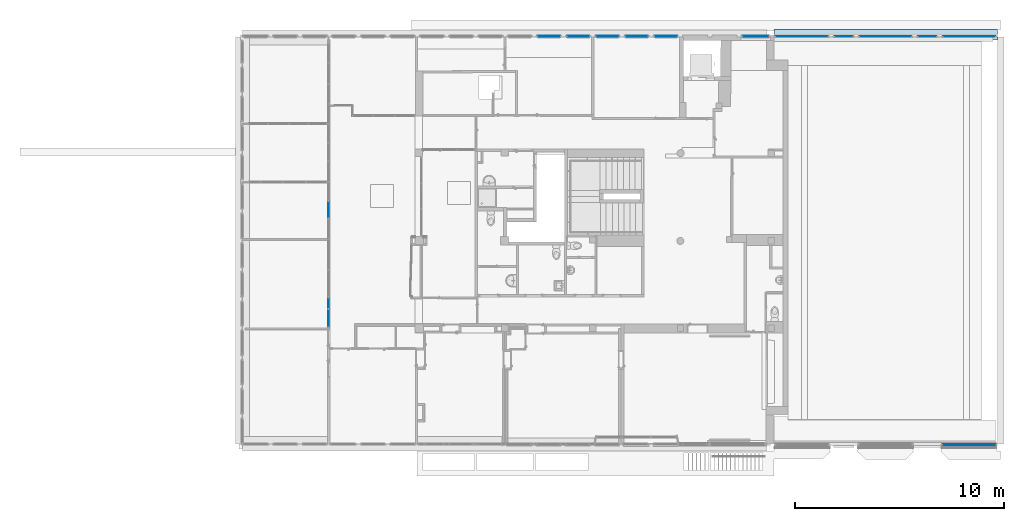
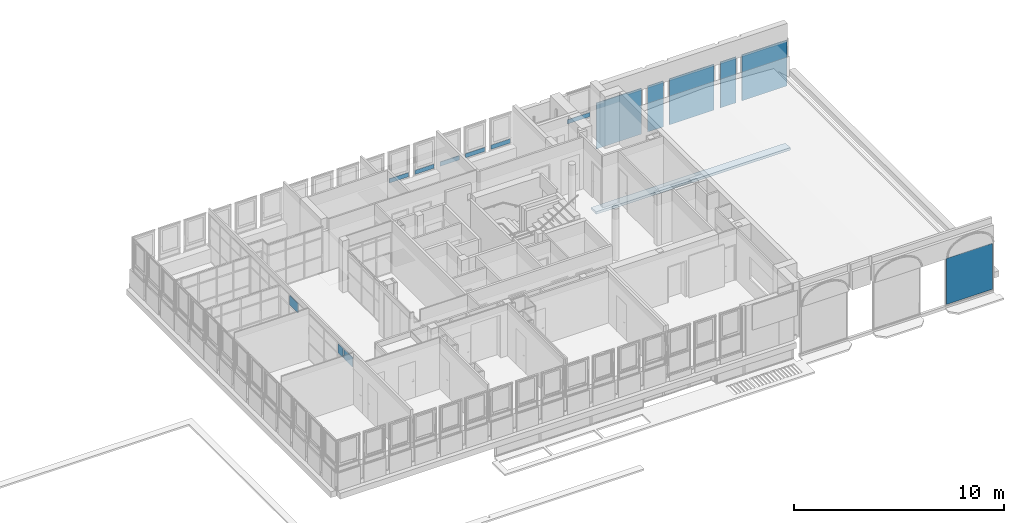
# One storey, part 34 of 97: 15 plates, 1 slab, 13 elements without a shape of their own.
"""IFC4 building model written with IfcOpenShell, lengths in metres."""

from ifc_helpers import new_model, entity, si_unit, converted_unit, derived_unit, direction, frame, origin, place, context, subcontext, project, spatial, indexed_curve, outline, extrude, shape, source, transform, mapped, material, layer, layer_set, type_object, type_shapes, element, aggregate, save


model = new_model("IFC4")

# Units and contexts
model_context = context("Model", 3, precision=1e-05, world=origin(), true_north=direction((6.12303176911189e-17, 1.0)))
body_context = subcontext(model_context, "Body", "Model", "MODEL_VIEW")
footprint_context = subcontext(model_context, "FootPrint", "Model", "MODEL_VIEW")
ifc_project = project(units=[si_unit("LENGTHUNIT", "METRE"), si_unit("AREAUNIT", "SQUARE_METRE"), si_unit("VOLUMEUNIT", "CUBIC_METRE"), converted_unit("PLANEANGLEUNIT", "DEGREE", entity("IfcRatioMeasure", 0.0174532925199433), si_unit("PLANEANGLEUNIT", "RADIAN"), dimensions=[0, 0, 0, 0, 0, 0, 0]), si_unit("MASSUNIT", "GRAM", prefix="KILO"), derived_unit("MASSDENSITYUNIT", [(si_unit("MASSUNIT", "GRAM", prefix="KILO"), 1), (si_unit("LENGTHUNIT", "METRE"), -3)]), derived_unit("MOMENTOFINERTIAUNIT", [(si_unit("LENGTHUNIT", "METRE"), 4)]), si_unit("TIMEUNIT", "SECOND"), si_unit("FREQUENCYUNIT", "HERTZ"), si_unit("THERMODYNAMICTEMPERATUREUNIT", "DEGREE_CELSIUS"), derived_unit("THERMALTRANSMITTANCEUNIT", [(si_unit("MASSUNIT", "GRAM", prefix="KILO"), 1), (si_unit("THERMODYNAMICTEMPERATUREUNIT", "KELVIN"), -1), (si_unit("TIMEUNIT", "SECOND"), -3)]), derived_unit("VOLUMETRICFLOWRATEUNIT", [(si_unit("LENGTHUNIT", "METRE"), 3), (si_unit("TIMEUNIT", "SECOND"), -1)]), si_unit("ELECTRICCURRENTUNIT", "AMPERE"), si_unit("ELECTRICVOLTAGEUNIT", "VOLT"), si_unit("POWERUNIT", "WATT"), si_unit("FORCEUNIT", "NEWTON", prefix="KILO"), si_unit("ILLUMINANCEUNIT", "LUX"), si_unit("LUMINOUSFLUXUNIT", "LUMEN"), si_unit("LUMINOUSINTENSITYUNIT", "CANDELA"), derived_unit("USERDEFINED", [(si_unit("MASSUNIT", "GRAM", prefix="KILO"), -1), (si_unit("LENGTHUNIT", "METRE"), -2), (si_unit("TIMEUNIT", "SECOND"), 3), (si_unit("LUMINOUSFLUXUNIT", "LUMEN"), 1)]), derived_unit("LINEARVELOCITYUNIT", [(si_unit("LENGTHUNIT", "METRE"), 1), (si_unit("TIMEUNIT", "SECOND"), -1)]), si_unit("PRESSUREUNIT", "PASCAL"), derived_unit("USERDEFINED", [(si_unit("LENGTHUNIT", "METRE"), -2), (si_unit("MASSUNIT", "GRAM", prefix="KILO"), 1), (si_unit("TIMEUNIT", "SECOND"), -2)]), derived_unit("LINEARFORCEUNIT", [(si_unit("MASSUNIT", "GRAM", prefix="KILO"), 1), (si_unit("LENGTHUNIT", "METRE"), 1), (si_unit("TIMEUNIT", "SECOND"), -2), (si_unit("LENGTHUNIT", "METRE"), -1)]), derived_unit("PLANARFORCEUNIT", [(si_unit("MASSUNIT", "GRAM", prefix="KILO"), 1), (si_unit("LENGTHUNIT", "METRE"), 1), (si_unit("TIMEUNIT", "SECOND"), -2), (si_unit("LENGTHUNIT", "METRE"), -2)])], contexts=[model_context])

# Site, building, storey
site_placement = place(None, origin())
site = spatial("IfcSite", under=ifc_project, at=site_placement, Name="Default", CompositionType="ELEMENT")
building_placement = place(site_placement, origin())
building = spatial("IfcBuilding", under=site, at=building_placement, Name="HOTEL CONSULAIRE BOULOGNE SUR MER", CompositionType="ELEMENT")
storey_placement = place(building_placement, frame((0.0, 0.0, 3.62152697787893)))
storey = spatial("IfcBuildingStorey", under=building, at=storey_placement, Name="Niveau 1", CompositionType="ELEMENT", Elevation=3.62152697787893)

# Slab
ifc_material_1 = material(Name="Plâtre", Category="Plâtre")
slab_type = type_object("IfcSlabType", Name="Sols 3:Sols 3", PredefinedType="FLOOR", material=ifc_material_1)
slab_placement = place(storey_placement, frame((11.6466382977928, -10.2140173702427, -4.82796366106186)))
element("IfcSlab", 1, at=slab_placement, inside=storey, type_object=slab_type, Name="Sols 3:Sols 3", ObjectType="Sols 3:Sols 3", PredefinedType="FLOOR", context=body_context, shape_type="SweptSolid", body=[
    extrude(outline(indexed_curve([(-0.24123902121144, -0.0594817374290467), (-0.103670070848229, -0.0594817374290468), (-0.0833548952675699, -0.059481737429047), (0.247095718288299, -0.0594817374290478), (0.245654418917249, -0.0377055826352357), (0.23748698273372, 0.0856937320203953), (0.108384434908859, 0.0771488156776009), (-0.161639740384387, 0.0592767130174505), (-0.248717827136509, 0.0535132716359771), (-0.24123902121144, -0.0594817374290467)], self_intersect=False)), frame((0.0, 0.242627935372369, 0.069822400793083), z_axis=(1.0, 0.0, 0.0), x_axis=(0.0, -0.997816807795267, 0.0660425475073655)), (0.0, 0.0, 1.0), 10.6903810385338),
])

# Curtain wall, plate
curtain_wall_type = type_object("IfcCurtainWallType", Name="Mur-rideau:Simple panneau", PredefinedType="NOTDEFINED")
curtain_wall_1_placement = place(storey_placement, frame((0.0, 0.0, -3.62152697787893)))
curtain_wall_1 = element("IfcCurtainWall", 2, at=curtain_wall_1_placement, inside=storey, type_object=curtain_wall_type, Name="Mur-rideau:Simple panneau", ObjectType="Mur-rideau:Simple panneau", PredefinedType="NOTDEFINED")
ifc_material_2 = material(Name="Verre", Category="Verre")
ifc_layer = layer(ifc_material_2, 0.04, Name="Verre", Category="Verre")
ifc_layer_set = layer_set([ifc_layer], Name="Mur-rideau:Simple panneau")
plate_type_1 = type_object("IfcPlateType", Name="Panneau système:Vitré", PredefinedType="CURTAIN_PANEL", material=ifc_layer_set)
shared_shape_1 = source(origin(), body_context, "Body", "SweptSolid", [
    extrude(outline(indexed_curve([(-0.02, -0.530000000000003), (0.02, -0.530000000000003), (0.02, 0.530000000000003), (-0.02, 0.530000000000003), (-0.02, -0.530000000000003)], self_intersect=False)), frame((0.530000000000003, 0.02, 0.0), z_axis=(0.0, 0.0, 1.0), x_axis=(0.0, 1.0, 0.0)), (0.0, 0.0, 1.0), 0.243),
])
shared_shape_2 = source(frame((-0.530000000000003, 0.00500000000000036, 0.0)), footprint_context, "FootPrint", "Curve2D", [
    entity("IfcIndexedPolyCurve", entity("IfcCartesianPointList2D", [[0.691544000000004, 0.00347600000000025], [0.691544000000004, 0.0434760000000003], [-0.368456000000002, 0.0434760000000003], [-0.368456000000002, 0.00347600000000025], [0.691544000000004, 0.00347600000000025]]), None, False),
])
type_shapes(plate_type_1, [shared_shape_1, shared_shape_2])
plate_1_placement = place(curtain_wall_1_placement, frame((0.347578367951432, -10.0696323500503, 4.48313951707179)))
plate_1 = element("IfcPlate", 3, at=plate_1_placement, type_object=plate_type_1, material=ifc_layer_set, Name="Panneau système:Vitré", ObjectType="Panneau système:Vitré", PredefinedType="CURTAIN_PANEL", shapes=[
    shape(body_context, "Body", "MappedRepresentation", [mapped(shared_shape_1, transform((0.0, 0.0, 0.0), scale=1.0))]),
    shape(body_context, "Body", "MappedRepresentation", [mapped(shared_shape_2, transform((0.0, 0.0, 0.0), scale=1.0))]),
])
aggregate(curtain_wall_1, [plate_1])

curtain_wall_2_placement = place(storey_placement, frame((0.0, 0.0, -3.62152697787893)))
curtain_wall_2 = element("IfcCurtainWall", 4, at=curtain_wall_2_placement, inside=storey, type_object=curtain_wall_type, Name="Mur-rideau:Simple panneau", ObjectType="Mur-rideau:Simple panneau", PredefinedType="NOTDEFINED")
plate_2_placement = place(curtain_wall_2_placement, frame((1.74757836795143, -10.0696323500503, 4.48313951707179)))
plate_2 = element("IfcPlate", 5, at=plate_2_placement, type_object=plate_type_1, material=ifc_layer_set, Name="Panneau système:Vitré", ObjectType="Panneau système:Vitré", PredefinedType="CURTAIN_PANEL", shapes=[
    shape(body_context, "Body", "MappedRepresentation", [mapped(shared_shape_1, transform((0.0, 0.0, 0.0), scale=1.0))]),
    shape(body_context, "Body", "MappedRepresentation", [mapped(shared_shape_2, transform((0.0, 0.0, 0.0), scale=1.0))]),
])
aggregate(curtain_wall_2, [plate_2])

curtain_wall_3_placement = place(storey_placement, frame((0.0, 0.0, -3.62152697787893)))
curtain_wall_3 = element("IfcCurtainWall", 6, at=curtain_wall_3_placement, inside=storey, type_object=curtain_wall_type, Name="Mur-rideau:Simple panneau", ObjectType="Mur-rideau:Simple panneau", PredefinedType="NOTDEFINED")
plate_3_placement = place(curtain_wall_3_placement, frame((3.14857836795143, -10.0696323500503, 4.48313951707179)))
plate_3 = element("IfcPlate", 7, at=plate_3_placement, type_object=plate_type_1, material=ifc_layer_set, Name="Panneau système:Vitré", ObjectType="Panneau système:Vitré", PredefinedType="CURTAIN_PANEL", shapes=[
    shape(body_context, "Body", "MappedRepresentation", [mapped(shared_shape_1, transform((0.0, 0.0, 0.0), scale=1.0))]),
    shape(body_context, "Body", "MappedRepresentation", [mapped(shared_shape_2, transform((0.0, 0.0, 0.0), scale=1.0))]),
])
aggregate(curtain_wall_3, [plate_3])

curtain_wall_4_placement = place(storey_placement, frame((0.0, 0.0, -3.62152697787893)))
curtain_wall_4 = element("IfcCurtainWall", 8, at=curtain_wall_4_placement, inside=storey, type_object=curtain_wall_type, Name="Mur-rideau:Simple panneau", ObjectType="Mur-rideau:Simple panneau", PredefinedType="NOTDEFINED")
plate_4_placement = place(curtain_wall_4_placement, frame((4.54757836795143, -10.0696323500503, 4.48313951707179)))
plate_4 = element("IfcPlate", 9, at=plate_4_placement, type_object=plate_type_1, material=ifc_layer_set, Name="Panneau système:Vitré", ObjectType="Panneau système:Vitré", PredefinedType="CURTAIN_PANEL", shapes=[
    shape(body_context, "Body", "MappedRepresentation", [mapped(shared_shape_1, transform((0.0, 0.0, 0.0), scale=1.0))]),
    shape(body_context, "Body", "MappedRepresentation", [mapped(shared_shape_2, transform((0.0, 0.0, 0.0), scale=1.0))]),
])
aggregate(curtain_wall_4, [plate_4])

curtain_wall_5_placement = place(storey_placement, frame((0.0, 0.0, -3.62152697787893)))
curtain_wall_5 = element("IfcCurtainWall", 10, at=curtain_wall_5_placement, inside=storey, type_object=curtain_wall_type, Name="Mur-rideau:Simple panneau", ObjectType="Mur-rideau:Simple panneau", PredefinedType="NOTDEFINED")
plate_5_placement = place(curtain_wall_5_placement, frame((5.94757836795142, -10.0696323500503, 4.48313951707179)))
plate_5 = element("IfcPlate", 11, at=plate_5_placement, type_object=plate_type_1, material=ifc_layer_set, Name="Panneau système:Vitré", ObjectType="Panneau système:Vitré", PredefinedType="CURTAIN_PANEL", shapes=[
    shape(body_context, "Body", "MappedRepresentation", [mapped(shared_shape_1, transform((0.0, 0.0, 0.0), scale=1.0))]),
    shape(body_context, "Body", "MappedRepresentation", [mapped(shared_shape_2, transform((0.0, 0.0, 0.0), scale=1.0))]),
])
aggregate(curtain_wall_5, [plate_5])

curtain_wall_6_placement = place(storey_placement, frame((0.0, 0.0, -3.62152697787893)))
curtain_wall_6 = element("IfcCurtainWall", 12, at=curtain_wall_6_placement, inside=storey, type_object=curtain_wall_type, Name="Mur-rideau:Simple panneau", ObjectType="Mur-rideau:Simple panneau", PredefinedType="NOTDEFINED")
plate_type_2 = type_object("IfcPlateType", Name="Panneau système:Vitré", PredefinedType="CURTAIN_PANEL", material=ifc_layer_set)
shared_shape_3 = source(origin(), body_context, "Body", "SweptSolid", [
    extrude(outline(indexed_curve([(-0.02, -0.627949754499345), (0.02, -0.627949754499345), (0.02, 0.627949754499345), (-0.02, 0.627949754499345), (-0.02, -0.627949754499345)], self_intersect=False)), frame((0.627949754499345, 0.02, 0.0), z_axis=(0.0, 0.0, 1.0), x_axis=(0.0, 1.0, 0.0)), (0.0, 0.0, 1.0), 0.243),
])
shared_shape_4 = source(frame((-0.627949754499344, 0.00499999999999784, 0.0)), footprint_context, "FootPrint", "Curve2D", [
    entity("IfcIndexedPolyCurve", entity("IfcCartesianPointList2D", [[0.819348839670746, 0.0034759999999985], [0.819348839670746, 0.0434759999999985], [-0.436550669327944, 0.0434759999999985], [-0.436550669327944, 0.0034759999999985], [0.819348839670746, 0.0034759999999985]]), None, False),
])
type_shapes(plate_type_2, [shared_shape_3, shared_shape_4])
plate_6_placement = place(curtain_wall_6_placement, frame((10.1475783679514, -10.0696323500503, 4.48313951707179)))
plate_6 = element("IfcPlate", 13, at=plate_6_placement, type_object=plate_type_2, material=ifc_layer_set, Name="Panneau système:Vitré", ObjectType="Panneau système:Vitré", PredefinedType="CURTAIN_PANEL", shapes=[
    shape(body_context, "Body", "MappedRepresentation", [mapped(shared_shape_3, transform((0.0, 0.0, 0.0), scale=1.0))]),
    shape(body_context, "Body", "MappedRepresentation", [mapped(shared_shape_4, transform((0.0, 0.0, 0.0), scale=1.0))]),
])
aggregate(curtain_wall_6, [plate_6])

curtain_wall_7_placement = place(storey_placement, frame((0.0, 0.0, -3.62152697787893)))
curtain_wall_7 = element("IfcCurtainWall", 14, at=curtain_wall_7_placement, inside=storey, type_object=curtain_wall_type, Name="Mur-rideau:Simple panneau", ObjectType="Mur-rideau:Simple panneau", PredefinedType="NOTDEFINED")
plate_type_3 = type_object("IfcPlateType", Name="Panneau système:Vitré", PredefinedType="CURTAIN_PANEL", material=ifc_layer_set)
shared_shape_5 = source(origin(), body_context, "Body", "SweptSolid", [
    extrude(outline(indexed_curve([(-0.02, -1.23658064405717), (0.02, -1.23658064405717), (0.02, 1.23658064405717), (-0.02, 1.23658064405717), (-0.02, -1.23658064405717)], self_intersect=False)), frame((1.23658064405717, 0.02, 0.0), z_axis=(0.0, 0.0, 1.0), x_axis=(0.0, 1.0, 0.0)), (0.0, 0.0, 1.0), 2.66936343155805),
])
shared_shape_6 = source(frame((-1.23658064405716, 0.00500000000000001, 0.0)), footprint_context, "FootPrint", "Curve2D", [
    entity("IfcIndexedPolyCurve", entity("IfcCartesianPointList2D", [[1.61349042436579, 0.003476], [1.61349042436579, 0.043476], [-0.85967086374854, 0.043476], [-0.85967086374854, 0.003476], [1.61349042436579, 0.003476]]), None, False),
])
type_shapes(plate_type_3, [shared_shape_5, shared_shape_6])
plate_7_placement = place(curtain_wall_7_placement, frame((22.2327413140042, -10.0380173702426, 2.48152697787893), z_axis=(0.0, 0.0, 1.0), x_axis=(-1.0, 0.0, 0.0)))
plate_7 = element("IfcPlate", 15, at=plate_7_placement, type_object=plate_type_3, material=ifc_layer_set, Name="Panneau système:Vitré", ObjectType="Panneau système:Vitré", PredefinedType="CURTAIN_PANEL", shapes=[
    shape(body_context, "Body", "MappedRepresentation", [mapped(shared_shape_5, transform((0.0, 0.0, 0.0), scale=1.0))]),
    shape(body_context, "Body", "MappedRepresentation", [mapped(shared_shape_6, transform((0.0, 0.0, 0.0), scale=1.0))]),
])
aggregate(curtain_wall_7, [plate_7])

curtain_wall_8_placement = place(storey_placement, frame((0.0, 0.0, -3.62152697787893)))
curtain_wall_8 = element("IfcCurtainWall", 16, at=curtain_wall_8_placement, inside=storey, type_object=curtain_wall_type, Name="Mur-rideau:Simple panneau", ObjectType="Mur-rideau:Simple panneau", PredefinedType="NOTDEFINED")
plate_type_4 = type_object("IfcPlateType", Name="Panneau système:Vitré", PredefinedType="CURTAIN_PANEL", material=ifc_layer_set)
shared_shape_7 = source(origin(), body_context, "Body", "SweptSolid", [
    extrude(outline(indexed_curve([(-0.02, -1.24591957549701), (0.02, -1.24591957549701), (0.02, 1.24591957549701), (-0.02, 1.24591957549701), (-0.02, -1.24591957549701)], self_intersect=False)), frame((1.24591957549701, 0.02, 0.0), z_axis=(0.0, 0.0, 1.0), x_axis=(0.0, 1.0, 0.0)), (0.0, 0.0, 1.0), 2.66936343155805),
])
shared_shape_8 = source(frame((-1.24591957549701, 0.00500000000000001, 0.0)), footprint_context, "FootPrint", "Curve2D", [
    entity("IfcIndexedPolyCurve", entity("IfcCartesianPointList2D", [[1.6256758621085, 0.003476], [1.6256758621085, 0.043476], [-0.866163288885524, 0.043476], [-0.866163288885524, 0.003476], [1.6256758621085, 0.003476]]), None, False),
])
type_shapes(plate_type_4, [shared_shape_7, shared_shape_8])
plate_8_placement = place(curtain_wall_8_placement, frame((14.2230366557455, -10.0380173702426, 2.48152697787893), z_axis=(0.0, 0.0, 1.0), x_axis=(-1.0, 0.0, 0.0)))
plate_8 = element("IfcPlate", 17, at=plate_8_placement, type_object=plate_type_4, material=ifc_layer_set, Name="Panneau système:Vitré", ObjectType="Panneau système:Vitré", PredefinedType="CURTAIN_PANEL", shapes=[
    shape(body_context, "Body", "MappedRepresentation", [mapped(shared_shape_7, transform((0.0, 0.0, 0.0), scale=1.0))]),
    shape(body_context, "Body", "MappedRepresentation", [mapped(shared_shape_8, transform((0.0, 0.0, 0.0), scale=1.0))]),
])
aggregate(curtain_wall_8, [plate_8])

curtain_wall_9_placement = place(storey_placement, frame((0.0, 0.0, -3.62152697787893)))
curtain_wall_9 = element("IfcCurtainWall", 18, at=curtain_wall_9_placement, inside=storey, type_object=curtain_wall_type, Name="Mur-rideau:Simple panneau", ObjectType="Mur-rideau:Simple panneau", PredefinedType="NOTDEFINED")
plate_type_5 = type_object("IfcPlateType", Name="Panneau système:Vitré", PredefinedType="CURTAIN_PANEL", material=ifc_layer_set)
shared_shape_9 = source(origin(), body_context, "Body", "SweptSolid", [
    extrude(outline(indexed_curve([(-0.02, -0.427254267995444), (0.02, -0.427254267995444), (0.02, 0.427254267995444), (-0.02, 0.427254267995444), (-0.02, -0.427254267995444)], self_intersect=False)), frame((0.427254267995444, 0.02, 0.0), z_axis=(0.0, 0.0, 1.0), x_axis=(0.0, 1.0, 0.0)), (0.0, 0.0, 1.0), 2.66936343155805),
])
shared_shape_10 = source(frame((-0.427254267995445, 0.00500000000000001, 0.0)), footprint_context, "FootPrint", "Curve2D", [
    entity("IfcIndexedPolyCurve", entity("IfcCartesianPointList2D", [[0.557481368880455, 0.003476], [0.557481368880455, 0.043476], [-0.297027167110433, 0.043476], [-0.297027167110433, 0.003476], [0.557481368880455, 0.003476]]), None, False),
])
type_shapes(plate_type_5, [shared_shape_9, shared_shape_10])
plate_9_placement = place(curtain_wall_9_placement, frame((15.4175451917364, -10.0380173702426, 2.48152697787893), z_axis=(0.0, 0.0, 1.0), x_axis=(-1.0, 0.0, 0.0)))
plate_9 = element("IfcPlate", 19, at=plate_9_placement, type_object=plate_type_5, material=ifc_layer_set, Name="Panneau système:Vitré", ObjectType="Panneau système:Vitré", PredefinedType="CURTAIN_PANEL", shapes=[
    shape(body_context, "Body", "MappedRepresentation", [mapped(shared_shape_9, transform((0.0, 0.0, 0.0), scale=1.0))]),
    shape(body_context, "Body", "MappedRepresentation", [mapped(shared_shape_10, transform((0.0, 0.0, 0.0), scale=1.0))]),
])
aggregate(curtain_wall_9, [plate_9])

curtain_wall_10_placement = place(storey_placement, frame((0.0, 0.0, -3.62152697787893)))
curtain_wall_10 = element("IfcCurtainWall", 20, at=curtain_wall_10_placement, inside=storey, type_object=curtain_wall_type, Name="Mur-rideau:Simple panneau", ObjectType="Mur-rideau:Simple panneau", PredefinedType="NOTDEFINED")
plate_type_6 = type_object("IfcPlateType", Name="Panneau système:Vitré", PredefinedType="CURTAIN_PANEL", material=ifc_layer_set)
shared_shape_11 = source(origin(), body_context, "Body", "SweptSolid", [
    extrude(outline(indexed_curve([(-0.02, -1.23175465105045), (0.02, -1.23175465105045), (0.02, 1.23175465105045), (-0.02, 1.23175465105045), (-0.02, -1.23175465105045)], self_intersect=False)), frame((1.23175465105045, 0.02, 0.0), z_axis=(0.0, 0.0, 1.0), x_axis=(0.0, 1.0, 0.0)), (0.0, 0.0, 1.0), 2.66936343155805),
])
shared_shape_12 = source(frame((-1.23175465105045, 0.00500000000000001, 0.0)), footprint_context, "FootPrint", "Curve2D", [
    entity("IfcIndexedPolyCurve", entity("IfcCartesianPointList2D", [[1.60719346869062, 0.003476], [1.60719346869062, 0.043476], [-0.856315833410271, 0.043476], [-0.856315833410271, 0.003476], [1.60719346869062, 0.003476]]), None, False),
])
type_shapes(plate_type_6, [shared_shape_11, shared_shape_12])
plate_10_placement = place(curtain_wall_10_placement, frame((18.2210544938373, -10.0380173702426, 2.48152697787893), z_axis=(0.0, 0.0, 1.0), x_axis=(-1.0, 0.0, 0.0)))
plate_10 = element("IfcPlate", 21, at=plate_10_placement, type_object=plate_type_6, material=ifc_layer_set, Name="Panneau système:Vitré", ObjectType="Panneau système:Vitré", PredefinedType="CURTAIN_PANEL", shapes=[
    shape(body_context, "Body", "MappedRepresentation", [mapped(shared_shape_11, transform((0.0, 0.0, 0.0), scale=1.0))]),
    shape(body_context, "Body", "MappedRepresentation", [mapped(shared_shape_12, transform((0.0, 0.0, 0.0), scale=1.0))]),
])
aggregate(curtain_wall_10, [plate_10])

curtain_wall_11_placement = place(storey_placement, frame((0.0, 0.0, -3.62152697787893)))
curtain_wall_11 = element("IfcCurtainWall", 22, at=curtain_wall_11_placement, inside=storey, type_object=curtain_wall_type, Name="Mur-rideau:Simple panneau", ObjectType="Mur-rideau:Simple panneau", PredefinedType="NOTDEFINED")
plate_type_7 = type_object("IfcPlateType", Name="Panneau système:Vitré", PredefinedType="CURTAIN_PANEL", material=ifc_layer_set)
shared_shape_13 = source(origin(), body_context, "Body", "SweptSolid", [
    extrude(outline(indexed_curve([(-0.02, -0.429262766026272), (0.02, -0.429262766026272), (0.02, 0.429262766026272), (-0.02, 0.429262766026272), (-0.02, -0.429262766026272)], self_intersect=False)), frame((0.429262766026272, 0.02, 0.0), z_axis=(0.0, 0.0, 1.0), x_axis=(0.0, 1.0, 0.0)), (0.0, 0.0, 1.0), 2.66936343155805),
])
shared_shape_14 = source(frame((-0.429262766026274, 0.00500000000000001, 0.0)), footprint_context, "FootPrint", "Curve2D", [
    entity("IfcIndexedPolyCurve", entity("IfcCartesianPointList2D", [[0.560102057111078, 0.003476], [0.560102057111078, 0.043476], [-0.298423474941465, 0.043476], [-0.298423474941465, 0.003476], [0.560102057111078, 0.003476]]), None, False),
])
type_shapes(plate_type_7, [shared_shape_13, shared_shape_14])
plate_11_placement = place(curtain_wall_11_placement, frame((19.4195800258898, -10.0380173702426, 2.48152697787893), z_axis=(0.0, 0.0, 1.0), x_axis=(-1.0, 0.0, 0.0)))
plate_11 = element("IfcPlate", 23, at=plate_11_placement, type_object=plate_type_7, material=ifc_layer_set, Name="Panneau système:Vitré", ObjectType="Panneau système:Vitré", PredefinedType="CURTAIN_PANEL", shapes=[
    shape(body_context, "Body", "MappedRepresentation", [mapped(shared_shape_13, transform((0.0, 0.0, 0.0), scale=1.0))]),
    shape(body_context, "Body", "MappedRepresentation", [mapped(shared_shape_14, transform((0.0, 0.0, 0.0), scale=1.0))]),
])
aggregate(curtain_wall_11, [plate_11])

# Curtain wall, plates
curtain_wall_12_placement = place(storey_placement, frame((0.0, 0.0, -3.62152697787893)))
curtain_wall_12 = element("IfcCurtainWall", 24, at=curtain_wall_12_placement, inside=storey, type_object=curtain_wall_type, Name="Mur-rideau:Simple panneau", ObjectType="Mur-rideau:Simple panneau", PredefinedType="NOTDEFINED")
plate_type_8 = type_object("IfcPlateType", Name="Panneau système:Vitré", PredefinedType="CURTAIN_PANEL", material=ifc_layer_set)
shared_shape_15 = source(origin(), body_context, "Body", "SweptSolid", [
    extrude(outline(indexed_curve([(-0.02, -0.403999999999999), (0.02, -0.403999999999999), (0.02, 0.403999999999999), (-0.02, 0.403999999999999), (-0.02, -0.403999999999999)], self_intersect=False)), frame((0.403999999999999, 0.02, 0.0), z_axis=(0.0, 0.0, 1.0), x_axis=(0.0, 1.0, 0.0)), (0.0, 0.0, 1.0), 0.546),
])
shared_shape_16 = source(frame((-0.403999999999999, 0.00500000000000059, 0.0)), footprint_context, "FootPrint", "Curve2D", [
    entity("IfcIndexedPolyCurve", entity("IfcCartesianPointList2D", [[0.527139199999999, 0.00347600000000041], [0.527139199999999, 0.0434760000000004], [-0.280860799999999, 0.0434760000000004], [-0.280860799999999, 0.00347600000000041], [0.527139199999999, 0.00347600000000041]]), None, False),
])
type_shapes(plate_type_8, [shared_shape_15, shared_shape_16])
plate_12_placement = place(curtain_wall_12_placement, frame((-9.65462464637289, -23.9392596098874, 5.70248743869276), z_axis=(0.0, 0.0, 1.0), x_axis=(0.0, 1.0, 0.0)))
plate_12 = element("IfcPlate", 25, at=plate_12_placement, type_object=plate_type_8, material=ifc_layer_set, Name="Panneau système:Vitré", ObjectType="Panneau système:Vitré", PredefinedType="CURTAIN_PANEL", shapes=[
    shape(body_context, "Body", "MappedRepresentation", [mapped(shared_shape_15, transform((0.0, 0.0, 0.0), scale=1.0))]),
    shape(body_context, "Body", "MappedRepresentation", [mapped(shared_shape_16, transform((0.0, 0.0, 0.0), scale=1.0))]),
])
plate_type_9 = type_object("IfcPlateType", Name="Panneau système:Vitré", PredefinedType="CURTAIN_PANEL", material=ifc_layer_set)
shared_shape_17 = source(origin(), body_context, "Body", "SweptSolid", [
    extrude(outline(indexed_curve([(-0.02, -0.235499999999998), (0.02, -0.235499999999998), (0.02, 0.235499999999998), (-0.02, 0.235499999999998), (-0.02, -0.235499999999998)], self_intersect=False)), frame((0.235499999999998, 0.02, 0.0), z_axis=(0.0, 0.0, 1.0), x_axis=(0.0, 1.0, 0.0)), (0.0, 0.0, 1.0), 0.546),
])
shared_shape_18 = source(frame((-0.235499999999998, 0.00500000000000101, 0.0)), footprint_context, "FootPrint", "Curve2D", [
    entity("IfcIndexedPolyCurve", entity("IfcCartesianPointList2D", [[0.307280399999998, 0.0034760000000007], [0.307280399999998, 0.0434760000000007], [-0.163719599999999, 0.0434760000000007], [-0.163719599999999, 0.0034760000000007], [0.307280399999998, 0.0034760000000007]]), None, False),
])
type_shapes(plate_type_9, [shared_shape_17, shared_shape_18])
plate_13_placement = place(curtain_wall_12_placement, frame((-9.65462464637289, -23.0612596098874, 5.70248743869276), z_axis=(0.0, 0.0, 1.0), x_axis=(0.0, 1.0, 0.0)))
plate_13 = element("IfcPlate", 26, at=plate_13_placement, type_object=plate_type_9, material=ifc_layer_set, Name="Panneau système:Vitré", ObjectType="Panneau système:Vitré", PredefinedType="CURTAIN_PANEL", shapes=[
    shape(body_context, "Body", "MappedRepresentation", [mapped(shared_shape_17, transform((0.0, 0.0, 0.0), scale=1.0))]),
    shape(body_context, "Body", "MappedRepresentation", [mapped(shared_shape_18, transform((0.0, 0.0, 0.0), scale=1.0))]),
])
plate_type_10 = type_object("IfcPlateType", Name="Panneau système:Vitré", PredefinedType="CURTAIN_PANEL", material=ifc_layer_set)
shared_shape_19 = source(origin(), body_context, "Body", "SweptSolid", [
    extrude(outline(indexed_curve([(-0.02, -0.389999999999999), (0.02, -0.389999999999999), (0.02, 0.389999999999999), (-0.02, 0.389999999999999), (-0.02, -0.389999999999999)], self_intersect=False)), frame((0.389999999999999, 0.02, 0.0), z_axis=(0.0, 0.0, 1.0), x_axis=(0.0, 1.0, 0.0)), (0.0, 0.0, 1.0), 0.546),
])
shared_shape_20 = source(frame((-0.389999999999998, 0.00500000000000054, 0.0)), footprint_context, "FootPrint", "Curve2D", [
    entity("IfcIndexedPolyCurve", entity("IfcCartesianPointList2D", [[0.508872, 0.00347600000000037], [0.508872, 0.0434760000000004], [-0.271127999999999, 0.0434760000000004], [-0.271127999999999, 0.00347600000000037], [0.508872, 0.00347600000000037]]), None, False),
])
type_shapes(plate_type_10, [shared_shape_19, shared_shape_20])
plate_14_placement = place(curtain_wall_12_placement, frame((-9.65462464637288, -18.7402596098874, 5.70248743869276), z_axis=(0.0, 0.0, 1.0), x_axis=(0.0, 1.0, 0.0)))
plate_14 = element("IfcPlate", 27, at=plate_14_placement, type_object=plate_type_10, material=ifc_layer_set, Name="Panneau système:Vitré", ObjectType="Panneau système:Vitré", PredefinedType="CURTAIN_PANEL", shapes=[
    shape(body_context, "Body", "MappedRepresentation", [mapped(shared_shape_19, transform((0.0, 0.0, 0.0), scale=1.0))]),
    shape(body_context, "Body", "MappedRepresentation", [mapped(shared_shape_20, transform((0.0, 0.0, 0.0), scale=1.0))]),
])
aggregate(curtain_wall_12, [plate_12, plate_13, plate_14])

# Curtain wall, plate
curtain_wall_13_placement = place(storey_placement, frame((0.0, 0.0, -3.62152697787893)))
curtain_wall_13 = element("IfcCurtainWall", 28, at=curtain_wall_13_placement, inside=storey, type_object=curtain_wall_type, Name="Mur-rideau:Simple panneau", ObjectType="Mur-rideau:Simple panneau", PredefinedType="NOTDEFINED")
plate_type_11 = type_object("IfcPlateType", Name="Panneau système:Vitré", PredefinedType="CURTAIN_PANEL", material=ifc_layer_set)
shared_shape_21 = source(origin(), body_context, "Body", "SweptSolid", [
    extrude(outline(indexed_curve([(-0.02, -1.26160736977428), (0.02, -1.26160736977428), (0.02, 1.26160736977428), (-0.02, 1.26160736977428), (-0.02, -1.26160736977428)], self_intersect=False)), frame((1.26160736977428, 0.02, 0.0), z_axis=(0.0, 0.0, 1.0), x_axis=(0.0, 1.0, 0.0)), (0.0, 0.0, 1.0), 2.67503552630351),
])
shared_shape_22 = source(frame((-1.26160736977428, 0.00499999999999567, 0.0)), footprint_context, "FootPrint", "Curve2D", [
    entity("IfcIndexedPolyCurve", entity("IfcCartesianPointList2D", [[1.64614529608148, 0.00347599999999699], [1.64614529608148, 0.043475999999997], [-0.877069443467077, 0.043475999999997], [-0.877069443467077, 0.00347599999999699], [1.64614529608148, 0.00347599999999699]]), None, False),
])
type_shapes(plate_type_11, [shared_shape_21, shared_shape_22])
plate_15_placement = place(curtain_wall_13_placement, frame((19.7354235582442, -29.6090671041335, 2.48152697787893)))
plate_15 = element("IfcPlate", 29, at=plate_15_placement, type_object=plate_type_11, material=ifc_layer_set, Name="Panneau système:Vitré", ObjectType="Panneau système:Vitré", PredefinedType="CURTAIN_PANEL", shapes=[
    shape(body_context, "Body", "MappedRepresentation", [mapped(shared_shape_21, transform((0.0, 0.0, 0.0), scale=1.0))]),
    shape(body_context, "Body", "MappedRepresentation", [mapped(shared_shape_22, transform((0.0, 0.0, 0.0), scale=1.0))]),
])
aggregate(curtain_wall_13, [plate_15])

save(model, "model.ifc")
